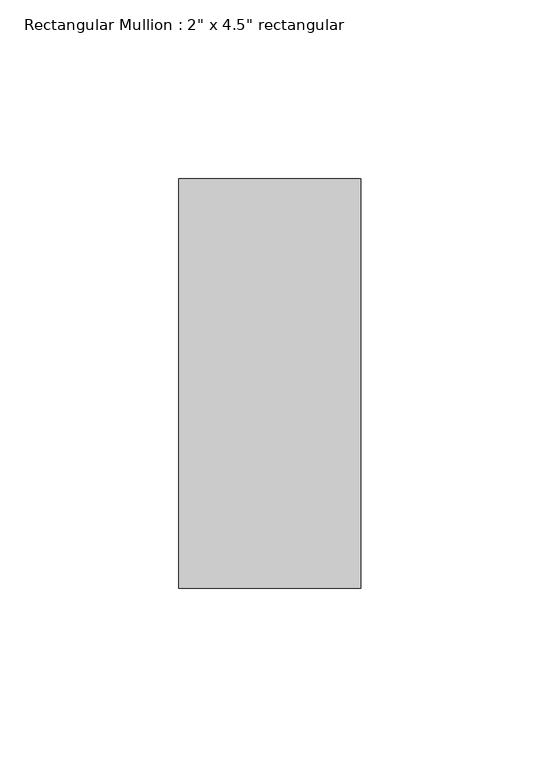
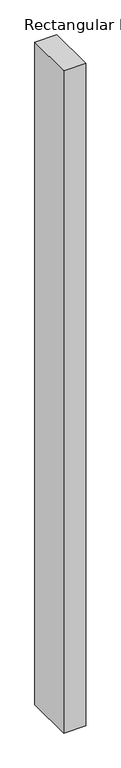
"""IFC4 building model written with IfcOpenShell, lengths in millimetres: member geometry."""

from ifc_helpers import new_model, si_unit, frame, origin, place, context, project, spatial, polyline, outline, extrude, source, transform, mapped, element, save


def member_c975838b(model_context):
    return source(origin(), model_context, "Body", "SweptSolid", [
        extrude(outline(polyline([(0.0, 57.15), (0.0, -57.15), (-50.8, -57.15), (-50.8, 57.15), (0.0, 57.15)])), frame((0.0, 0.0, -1613.1054371), z_axis=(0.0, 0.0, 1.0), x_axis=(1.0, 0.0, 0.0)), (0.0, 0.0, 1.0), 1613.1054371),
    ])


if __name__ == "__main__":
    model = new_model("IFC4")
    model_context = context("Model", 3, world=origin())
    ifc_project = project(units=[si_unit("LENGTHUNIT", "METRE", prefix="MILLI")], contexts=[model_context])
    site = spatial("IfcSite", under=ifc_project)
    building = spatial("IfcBuilding", under=site)
    placement = place(None, origin())
    member_shape = member_c975838b(model_context)
    element("IfcMember", 1, ObjectType="Rectangular Mullion : 2\" x 4.5\" rectangular", at=placement, inside=building, context=model_context, shape_type="MappedRepresentation", body=[
        mapped(member_shape, transform((0.0, 0.0, 0.0), x_axis=(1.0, 0.0, 0.0), y_axis=(0.0, 1.0, 0.0), z_axis=(0.0, 0.0, 1.0))),
    ])
    save(model, "model.ifc")
